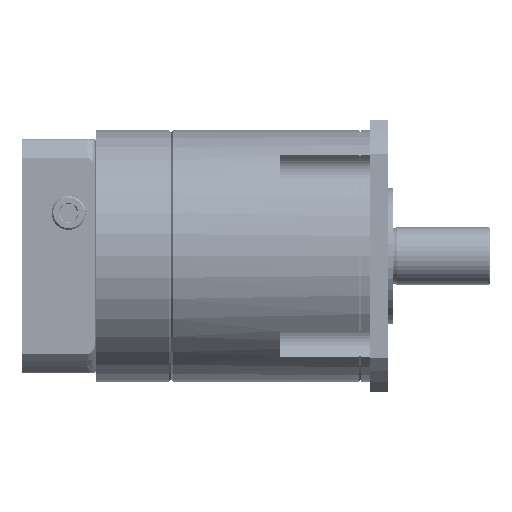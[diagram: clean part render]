
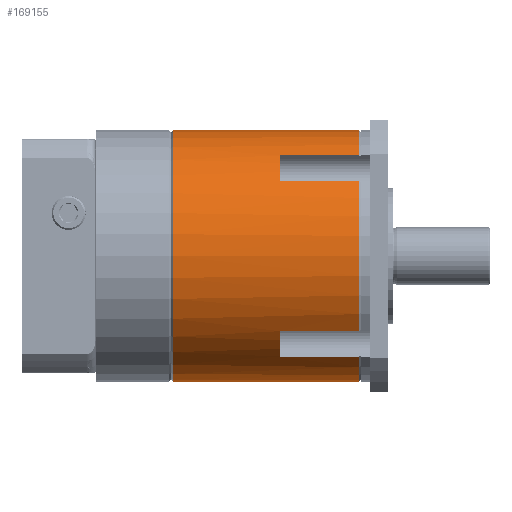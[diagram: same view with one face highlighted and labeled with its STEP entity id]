
A CAD part, front view. The second image highlights one B-rep face of the part: STEP entity #169155.
In plain terms, the highlighted cylindrical face has radius 35 mm (diameter 70 mm), a partial arc.
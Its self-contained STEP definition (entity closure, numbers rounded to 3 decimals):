
#1775 = VERTEX_POINT ( 'NONE', #75967 ) ;
#3975 = CIRCLE ( 'NONE', #104099, 35. ) ;
#4055 = VECTOR ( 'NONE', #119869, 1000. ) ;
#4884 = CIRCLE ( 'NONE', #105008, 35. ) ;
#6277 = CIRCLE ( 'NONE', #106417, 35. ) ;
#7971 = CIRCLE ( 'NONE', #30821, 35. ) ;
#9405 = ORIENTED_EDGE ( 'NONE', *, *, #38848, .T. ) ;
#12574 = VERTEX_POINT ( 'NONE', #167684 ) ;
#13833 = CARTESIAN_POINT ( 'NONE',  ( -59.556, -28.03, -20.959 ) ) ;
#15744 = LINE ( 'NONE', #70296, #68779 ) ;
#17714 = EDGE_CURVE ( 'NONE', #12574, #65631, #175180, .T. ) ;
#19441 = ORIENTED_EDGE ( 'NONE', *, *, #93175, .T. ) ;
#20257 = DIRECTION ( 'NONE',  ( -1., 0., 0. ) ) ;
#20815 = CARTESIAN_POINT ( 'NONE',  ( -0.5, -28.03, -20.959 ) ) ;
#21129 = VERTEX_POINT ( 'NONE', #153511 ) ;
#24429 = CARTESIAN_POINT ( 'NONE',  ( -0.5, 0., 0. ) ) ;
#29333 = CARTESIAN_POINT ( 'NONE',  ( -0.5, 0., 35. ) ) ;
#30821 = AXIS2_PLACEMENT_3D ( 'NONE', #166878, #85358, #140156 ) ;
#33417 = VERTEX_POINT ( 'NONE', #29333 ) ;
#33697 = AXIS2_PLACEMENT_3D ( 'NONE', #102564, #157218, #34396 ) ;
#34396 = DIRECTION ( 'NONE',  ( 0., 0., 1. ) ) ;
#34866 = DIRECTION ( 'NONE',  ( 1., 0., 0. ) ) ;
#38848 = EDGE_CURVE ( 'NONE', #91459, #95363, #4884, .T. ) ;
#39109 = DIRECTION ( 'NONE',  ( 0., 0., -1. ) ) ;
#39963 = VERTEX_POINT ( 'NONE', #156854 ) ;
#44108 = DIRECTION ( 'NONE',  ( -1., 0., 0. ) ) ;
#45889 = DIRECTION ( 'NONE',  ( -1., 0., 0. ) ) ;
#49790 = DIRECTION ( 'NONE',  ( 0., 0., 1. ) ) ;
#55443 = VECTOR ( 'NONE', #68398, 1000. ) ;
#62043 = VERTEX_POINT ( 'NONE', #108271 ) ;
#62076 = AXIS2_PLACEMENT_3D ( 'NONE', #107293, #161906, #39109 ) ;
#63555 = EDGE_CURVE ( 'NONE', #141427, #1775, #15744, .T. ) ;
#64630 = VERTEX_POINT ( 'NONE', #74730 ) ;
#65055 = CARTESIAN_POINT ( 'NONE',  ( -59.556, -20.959, -28.03 ) ) ;
#65631 = VERTEX_POINT ( 'NONE', #142827 ) ;
#68398 = DIRECTION ( 'NONE',  ( 1., 0., 0. ) ) ;
#68779 = VECTOR ( 'NONE', #125116, 1000. ) ;
#70296 = CARTESIAN_POINT ( 'NONE',  ( -59.556, -28.03, 20.959 ) ) ;
#71263 = ORIENTED_EDGE ( 'NONE', *, *, #89282, .T. ) ;
#72534 = EDGE_LOOP ( 'NONE', ( #163909, #119032, #71263, #130302, #123959, #148158, #121263, #141896, #76148, #150569, #19441, #9405 ) ) ;
#74730 = CARTESIAN_POINT ( 'NONE',  ( -22.5, -20.959, -28.03 ) ) ;
#75967 = CARTESIAN_POINT ( 'NONE',  ( -22.5, -28.03, 20.959 ) ) ;
#76148 = ORIENTED_EDGE ( 'NONE', *, *, #17714, .T. ) ;
#76541 = VECTOR ( 'NONE', #45889, 1000. ) ;
#79036 = DIRECTION ( 'NONE',  ( -1., 0., 0. ) ) ;
#84795 = EDGE_CURVE ( 'NONE', #12574, #1775, #139512, .T. ) ;
#85358 = DIRECTION ( 'NONE',  ( 1., 0., 0. ) ) ;
#86272 = AXIS2_PLACEMENT_3D ( 'NONE', #118020, #172522, #49790 ) ;
#88352 = LINE ( 'NONE', #143116, #100361 ) ;
#89282 = EDGE_CURVE ( 'NONE', #62043, #64630, #146750, .T. ) ;
#89286 = FACE_OUTER_BOUND ( 'NONE', #72534, .T. ) ;
#89546 = DIRECTION ( 'NONE',  ( 0., 0., -1. ) ) ;
#91459 = VERTEX_POINT ( 'NONE', #93815 ) ;
#93130 = EDGE_CURVE ( 'NONE', #21129, #64630, #7971, .T. ) ;
#93175 = EDGE_CURVE ( 'NONE', #33417, #91459, #114111, .T. ) ;
#93753 = CARTESIAN_POINT ( 'NONE',  ( -59.556, -20.959, 28.03 ) ) ;
#93815 = CARTESIAN_POINT ( 'NONE',  ( -52.5, 0., 35. ) ) ;
#95363 = VERTEX_POINT ( 'NONE', #175246 ) ;
#98296 = EDGE_CURVE ( 'NONE', #39963, #95363, #88352, .T. ) ;
#98849 = DIRECTION ( 'NONE',  ( 0., 0., 1. ) ) ;
#100361 = VECTOR ( 'NONE', #20257, 1000. ) ;
#102564 = CARTESIAN_POINT ( 'NONE',  ( -0.5, 0., 0. ) ) ;
#104099 = AXIS2_PLACEMENT_3D ( 'NONE', #24429, #79036, #133825 ) ;
#104226 = EDGE_CURVE ( 'NONE', #21129, #164315, #136649, .T. ) ;
#105008 = AXIS2_PLACEMENT_3D ( 'NONE', #157686, #34866, #89546 ) ;
#105803 = CARTESIAN_POINT ( 'NONE',  ( -0.5, -28.03, 20.959 ) ) ;
#106417 = AXIS2_PLACEMENT_3D ( 'NONE', #164426, #44108, #98849 ) ;
#107293 = CARTESIAN_POINT ( 'NONE',  ( -22.5, 0., 0. ) ) ;
#108137 = EDGE_CURVE ( 'NONE', #65631, #33417, #111045, .T. ) ;
#108271 = CARTESIAN_POINT ( 'NONE',  ( -0.5, -20.959, -28.03 ) ) ;
#108645 = VECTOR ( 'NONE', #148498, 1000. ) ;
#111045 = CIRCLE ( 'NONE', #33697, 35. ) ;
#114111 = LINE ( 'NONE', #168655, #76541 ) ;
#118020 = CARTESIAN_POINT ( 'NONE',  ( -59.556, 0., 0. ) ) ;
#119032 = ORIENTED_EDGE ( 'NONE', *, *, #134937, .T. ) ;
#119869 = DIRECTION ( 'NONE',  ( -1., 0., 0. ) ) ;
#121263 = ORIENTED_EDGE ( 'NONE', *, *, #63555, .T. ) ;
#123959 = ORIENTED_EDGE ( 'NONE', *, *, #104226, .T. ) ;
#125116 = DIRECTION ( 'NONE',  ( -1., 0., 0. ) ) ;
#130302 = ORIENTED_EDGE ( 'NONE', *, *, #93130, .F. ) ;
#133825 = DIRECTION ( 'NONE',  ( 0., 0., 1. ) ) ;
#134937 = EDGE_CURVE ( 'NONE', #39963, #62043, #3975, .T. ) ;
#136649 = LINE ( 'NONE', #13833, #55443 ) ;
#139512 = CIRCLE ( 'NONE', #62076, 35. ) ;
#140156 = DIRECTION ( 'NONE',  ( 0., 0., -1. ) ) ;
#141427 = VERTEX_POINT ( 'NONE', #105803 ) ;
#141896 = ORIENTED_EDGE ( 'NONE', *, *, #84795, .F. ) ;
#142827 = CARTESIAN_POINT ( 'NONE',  ( -0.5, -20.959, 28.03 ) ) ;
#143116 = CARTESIAN_POINT ( 'NONE',  ( -59.556, 0., -35. ) ) ;
#144040 = CYLINDRICAL_SURFACE ( 'NONE', #86272, 35. ) ;
#146750 = LINE ( 'NONE', #65055, #4055 ) ;
#148158 = ORIENTED_EDGE ( 'NONE', *, *, #169326, .T. ) ;
#148498 = DIRECTION ( 'NONE',  ( 1., 0., 0. ) ) ;
#150569 = ORIENTED_EDGE ( 'NONE', *, *, #108137, .T. ) ;
#153511 = CARTESIAN_POINT ( 'NONE',  ( -22.5, -28.03, -20.959 ) ) ;
#156854 = CARTESIAN_POINT ( 'NONE',  ( -0.5, 0., -35. ) ) ;
#157218 = DIRECTION ( 'NONE',  ( -1., 0., 0. ) ) ;
#157686 = CARTESIAN_POINT ( 'NONE',  ( -52.5, 0., 0. ) ) ;
#161906 = DIRECTION ( 'NONE',  ( 1., 0., 0. ) ) ;
#163909 = ORIENTED_EDGE ( 'NONE', *, *, #98296, .F. ) ;
#164315 = VERTEX_POINT ( 'NONE', #20815 ) ;
#164426 = CARTESIAN_POINT ( 'NONE',  ( -0.5, 0., 0. ) ) ;
#166878 = CARTESIAN_POINT ( 'NONE',  ( -22.5, 0., 0. ) ) ;
#167684 = CARTESIAN_POINT ( 'NONE',  ( -22.5, -20.959, 28.03 ) ) ;
#168655 = CARTESIAN_POINT ( 'NONE',  ( -59.556, 0., 35. ) ) ;
#169155 = ADVANCED_FACE ( 'NONE', ( #89286 ), #144040, .T. ) ;
#169326 = EDGE_CURVE ( 'NONE', #164315, #141427, #6277, .T. ) ;
#172522 = DIRECTION ( 'NONE',  ( -1., 0., 0. ) ) ;
#175180 = LINE ( 'NONE', #93753, #108645 ) ;
#175246 = CARTESIAN_POINT ( 'NONE',  ( -52.5, 0., -35. ) ) ;
